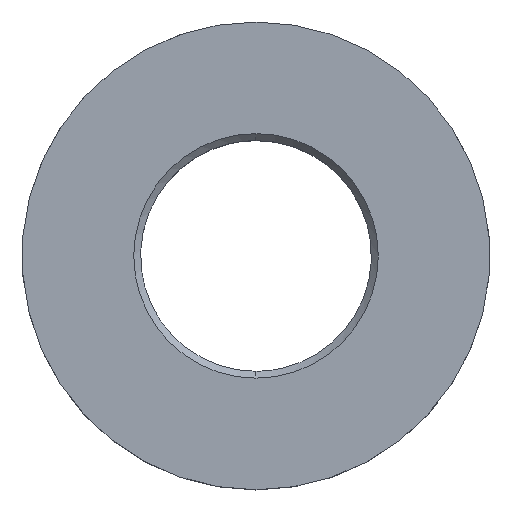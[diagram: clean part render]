
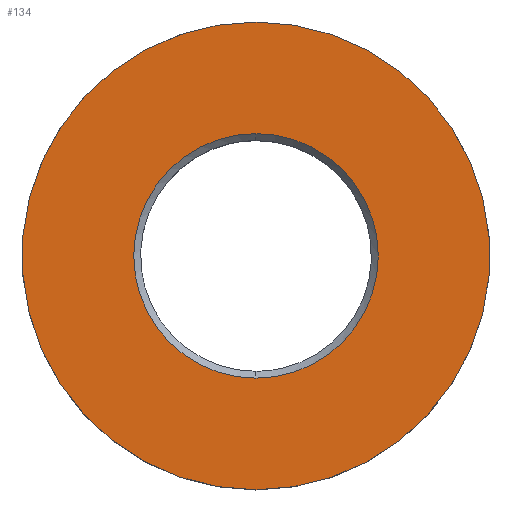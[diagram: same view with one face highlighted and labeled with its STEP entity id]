
A CAD part, top view. The second image highlights one B-rep face of the part: STEP entity #134.
In plain terms, the highlighted planar face has unit normal (0, 0, 1).
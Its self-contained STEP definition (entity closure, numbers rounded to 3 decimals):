
#10 = CARTESIAN_POINT ( 'NONE',  ( 40.717, -17.68, 18.4 ) ) ;
#11 = CARTESIAN_POINT ( 'NONE',  ( 23.555, 0.002, 18.4 ) ) ;
#16 = CARTESIAN_POINT ( 'NONE',  ( 0., 37.5, 18.4 ) ) ;
#19 = CARTESIAN_POINT ( 'NONE',  ( 0., -19.6, 18.4 ) ) ;
#23 = CARTESIAN_POINT ( 'NONE',  ( -14.726, -37.5, 18.4 ) ) ;
#24 = CARTESIAN_POINT ( 'NONE',  ( -15.394, -16.146, 18.4 ) ) ;
#36 = CARTESIAN_POINT ( 'NONE',  ( 0., -19.6, 18.4 ) ) ;
#39 = CARTESIAN_POINT ( 'NONE',  ( 0., 37.5, 18.4 ) ) ;
#40 = FACE_OUTER_BOUND ( 'NONE', #353, .T. ) ;
#52 = CARTESIAN_POINT ( 'NONE',  ( -40.717, -17.676, 18.4 ) ) ;
#53 = CARTESIAN_POINT ( 'NONE',  ( -21.282, 9.241, 18.4 ) ) ;
#68 = VERTEX_POINT ( 'NONE', #386 ) ;
#74 = CARTESIAN_POINT ( 'NONE',  ( 14.726, 37.5, 18.4 ) ) ;
#77 = CARTESIAN_POINT ( 'NONE',  ( 29.452, -30.892, 18.4 ) ) ;
#87 = CARTESIAN_POINT ( 'NONE',  ( 0., 19.6, 18.4 ) ) ;
#91 = CARTESIAN_POINT ( 'NONE',  ( -29.452, 30.892, 18.4 ) ) ;
#102 = AXIS2_PLACEMENT_3D ( 'NONE', #114, #110, #139 ) ;
#106 = CARTESIAN_POINT ( 'NONE',  ( 29.452, 30.891, 18.4 ) ) ;
#107 = CARTESIAN_POINT ( 'NONE',  ( 15.394, -16.146, 18.4 ) ) ;
#110 = DIRECTION ( 'NONE',  ( 0., 0., 1. ) ) ;
#114 = CARTESIAN_POINT ( 'NONE',  ( 39., -39., 18.4 ) ) ;
#120 = EDGE_LOOP ( 'NONE', ( #385, #289 ) ) ;
#124 = EDGE_CURVE ( 'NONE', #68, #192, #128, .T. ) ;
#126 = CARTESIAN_POINT ( 'NONE',  ( -29.452, -30.891, 18.4 ) ) ;
#128 = B_SPLINE_CURVE_WITH_KNOTS ( 'NONE', 8,
 ( #305, #301, #361, #364, #11, #243, #107, #144, #36 ),
 .UNSPECIFIED., .F., .F.,
 ( 9, 9 ),
 ( 0., 0.062 ),
 .UNSPECIFIED. ) ;
#134 = ADVANCED_FACE ( 'NONE', ( #331, #40 ), #271, .T. ) ;
#136 = ORIENTED_EDGE ( 'NONE', *, *, #378, .F. ) ;
#139 = DIRECTION ( 'NONE',  ( 0., 1., 0. ) ) ;
#144 = CARTESIAN_POINT ( 'NONE',  ( 7.697, -19.6, 18.4 ) ) ;
#159 = CARTESIAN_POINT ( 'NONE',  ( -23.555, -0.002, 18.4 ) ) ;
#168 = VERTEX_POINT ( 'NONE', #179 ) ;
#174 = CARTESIAN_POINT ( 'NONE',  ( 45.067, 0.004, 18.4 ) ) ;
#179 = CARTESIAN_POINT ( 'NONE',  ( 0., -37.5, 18.4 ) ) ;
#186 = CARTESIAN_POINT ( 'NONE',  ( -7.697, 19.6, 18.4 ) ) ;
#192 = VERTEX_POINT ( 'NONE', #251 ) ;
#201 = B_SPLINE_CURVE_WITH_KNOTS ( 'NONE', 8,
 ( #218, #23, #126, #52, #342, #376, #91, #221, #278 ),
 .UNSPECIFIED., .F., .F.,
 ( 9, 9 ),
 ( 0., 0.117 ),
 .UNSPECIFIED. ) ;
#206 = CARTESIAN_POINT ( 'NONE',  ( 14.726, -37.5, 18.4 ) ) ;
#208 = CARTESIAN_POINT ( 'NONE',  ( 0., -37.5, 18.4 ) ) ;
#209 = EDGE_CURVE ( 'NONE', #192, #68, #404, .T. ) ;
#215 = CARTESIAN_POINT ( 'NONE',  ( -7.697, -19.6, 18.4 ) ) ;
#218 = CARTESIAN_POINT ( 'NONE',  ( 0., -37.5, 18.4 ) ) ;
#221 = CARTESIAN_POINT ( 'NONE',  ( -14.726, 37.5, 18.4 ) ) ;
#243 = CARTESIAN_POINT ( 'NONE',  ( 21.282, -9.241, 18.4 ) ) ;
#251 = CARTESIAN_POINT ( 'NONE',  ( 0., -19.6, 18.4 ) ) ;
#271 = PLANE ( 'NONE',  #102 ) ;
#278 = CARTESIAN_POINT ( 'NONE',  ( 0., 37.5, 18.4 ) ) ;
#281 = CARTESIAN_POINT ( 'NONE',  ( -21.282, -9.239, 18.4 ) ) ;
#289 = ORIENTED_EDGE ( 'NONE', *, *, #124, .T. ) ;
#300 = CARTESIAN_POINT ( 'NONE',  ( 40.717, 17.676, 18.4 ) ) ;
#301 = CARTESIAN_POINT ( 'NONE',  ( 7.697, 19.6, 18.4 ) ) ;
#305 = CARTESIAN_POINT ( 'NONE',  ( 0., 19.6, 18.4 ) ) ;
#308 = B_SPLINE_CURVE_WITH_KNOTS ( 'NONE', 8,
 ( #39, #74, #106, #300, #174, #10, #77, #206, #208 ),
 .UNSPECIFIED., .F., .F.,
 ( 9, 9 ),
 ( 0., 0.117 ),
 .UNSPECIFIED. ) ;
#323 = VERTEX_POINT ( 'NONE', #16 ) ;
#324 = ORIENTED_EDGE ( 'NONE', *, *, #354, .F. ) ;
#331 = FACE_BOUND ( 'NONE', #120, .T. ) ;
#342 = CARTESIAN_POINT ( 'NONE',  ( -45.067, -0.004, 18.4 ) ) ;
#353 = EDGE_LOOP ( 'NONE', ( #324, #136 ) ) ;
#354 = EDGE_CURVE ( 'NONE', #323, #168, #308, .T. ) ;
#361 = CARTESIAN_POINT ( 'NONE',  ( 15.394, 16.146, 18.4 ) ) ;
#364 = CARTESIAN_POINT ( 'NONE',  ( 21.282, 9.239, 18.4 ) ) ;
#374 = CARTESIAN_POINT ( 'NONE',  ( -15.394, 16.146, 18.4 ) ) ;
#376 = CARTESIAN_POINT ( 'NONE',  ( -40.717, 17.68, 18.4 ) ) ;
#378 = EDGE_CURVE ( 'NONE', #168, #323, #201, .T. ) ;
#385 = ORIENTED_EDGE ( 'NONE', *, *, #209, .T. ) ;
#386 = CARTESIAN_POINT ( 'NONE',  ( 0., 19.6, 18.4 ) ) ;
#404 = B_SPLINE_CURVE_WITH_KNOTS ( 'NONE', 8,
 ( #19, #215, #24, #281, #159, #53, #374, #186, #87 ),
 .UNSPECIFIED., .F., .F.,
 ( 9, 9 ),
 ( 0., 0.062 ),
 .UNSPECIFIED. ) ;
